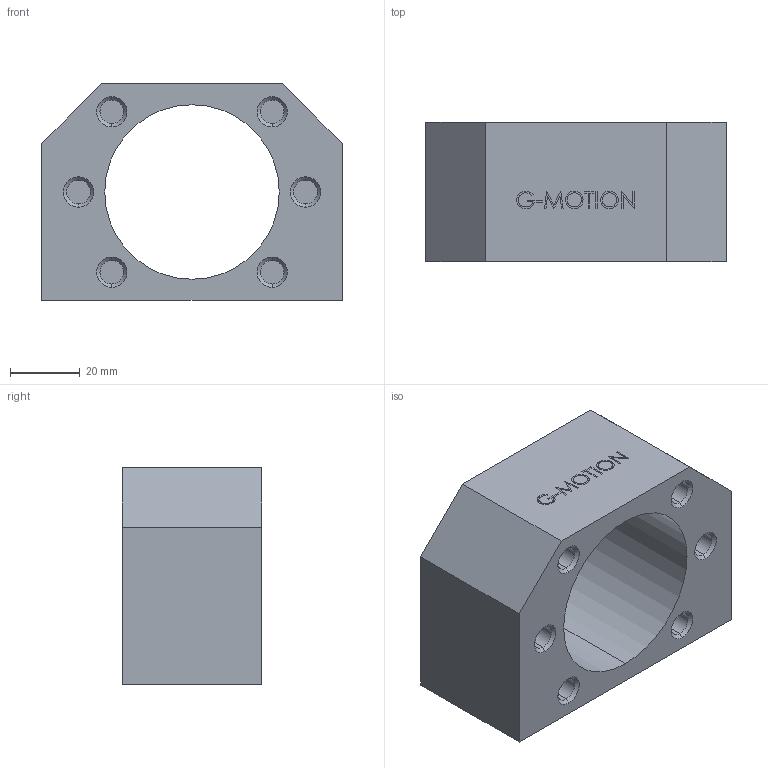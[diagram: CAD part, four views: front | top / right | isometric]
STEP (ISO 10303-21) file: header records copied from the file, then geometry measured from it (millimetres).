
FILE_DESCRIPTION (( 'STEP AP214' ), '1' );
FILE_NAME ('DSG3205-3210.STEP', '2026-09-03T10:59:25', ( '' ), ( '' ), 'SwSTEP 2.0', 'SolidWorks 2019', '' );
FILE_SCHEMA (( 'AUTOMOTIVE_DESIGN' ));
Length unit declared in the file: millimetre
Products named in the file (1): DSG3205-3210
Bounding box: 86 x 40 x 62 mm (x, y, z)
Volume: 117409.4 mm3; surface area: 26711 mm2
Topology: 1 solids, 1 shells, 138 faces, 328 edges, 212 vertices
Faces by surface type: plane 71, bspline 25, cylinder 22, cone 20
Entity records: 6748 total; most frequent: CARTESIAN_POINT 2792, ORIENTED_EDGE 656, DIRECTION 570, EDGE_CURVE 328, LINE 214, VECTOR 214, VERTEX_POINT 212, AXIS2_PLACEMENT_3D 178
